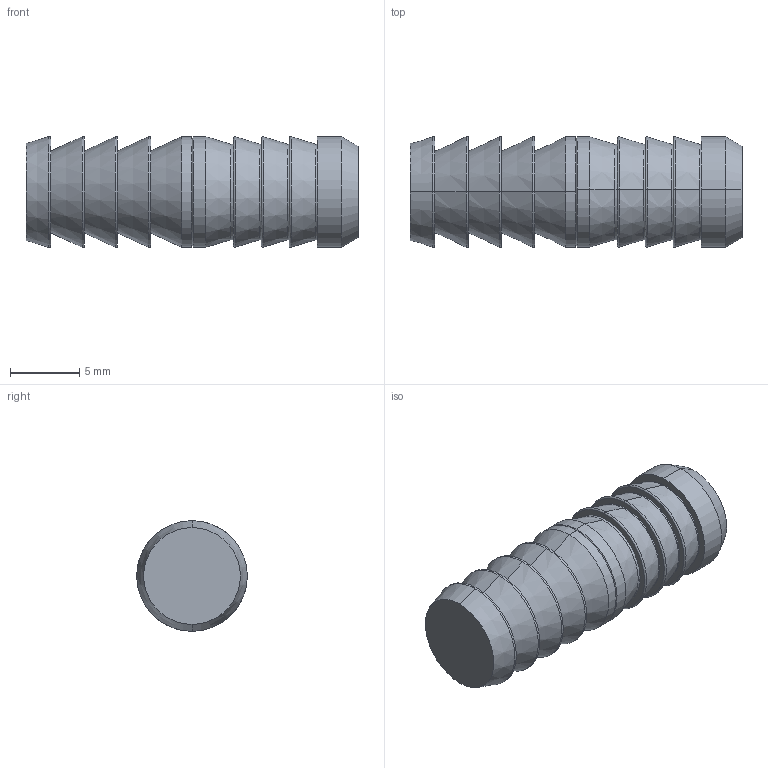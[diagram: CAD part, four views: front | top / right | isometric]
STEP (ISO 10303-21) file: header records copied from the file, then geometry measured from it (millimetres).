
FILE_DESCRIPTION (( 'STEP AP214' ), '1' );
FILE_NAME ('Tischverbinder_kpl.STEP', '2026-03-24T14:10:59', ( '' ), ( '' ), 'SwSTEP 2.0', 'SolidWorks 2021', '' );
FILE_SCHEMA (( 'AUTOMOTIVE_DESIGN' ));
Length unit declared in the file: millimetre
Products named in the file (3): Tischverbinder_kpl; 04_Ø8x20_Tischverbinder_DZ000191; 04_Ø8x12_Tischverbinder_DZ000189
Assembly tree (2 placements, depth 2):
  Tischverbinder_kpl
    04_Ø8x20_Tischverbinder_DZ000191
    04_Ø8x12_Tischverbinder_DZ000189
Bounding box: 24 x 8 x 8 mm (x, y, z)
Volume: 876.3 mm3; surface area: 1186.7 mm2
Topology: 2 solids, 2 shells, 70 faces, 142 edges, 83 vertices
Faces by surface type: cylinder 26, cone 24, plane 12, torus 6, sphere 2
Entity records: 1940 total; most frequent: DIRECTION 380, CARTESIAN_POINT 298, ORIENTED_EDGE 280, AXIS2_PLACEMENT_3D 165, EDGE_CURVE 140, CIRCLE 90, VERTEX_POINT 83, EDGE_LOOP 81
